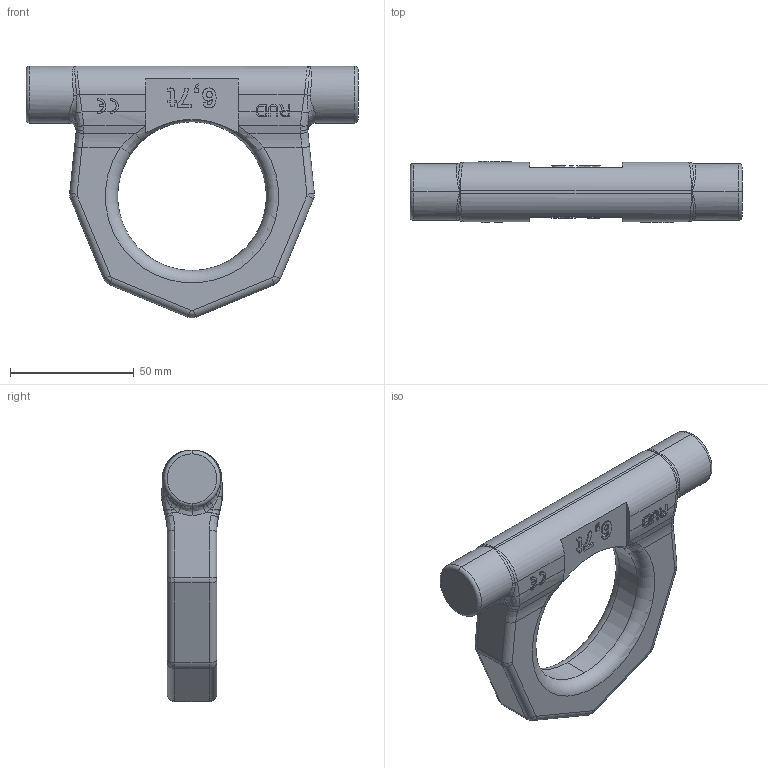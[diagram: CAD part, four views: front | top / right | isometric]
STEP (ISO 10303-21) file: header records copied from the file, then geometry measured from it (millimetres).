
FILE_DESCRIPTION((''),'2;1');
FILE_NAME('001-M35241-P-1','2019-02-01T',('anja.joas'),(''),'PRO/ENGINEER BY PARAMETRIC TECHNOLOGY CORPORATION, 2011490','PRO/ENGINEER BY PARAMETRIC TECHNOLOGY CORPORATION, 2011490','');
FILE_SCHEMA(('CONFIG_CONTROL_DESIGN'));
Length unit declared in the file: millimetre
Products named in the file (1): 001-M35241-P-1
Bounding box: 134 x 25 x 101.62 mm (x, y, z)
Volume: 128235.8 mm3; surface area: 23369.5 mm2
Topology: 1 solids, 1 shells, 484 faces, 1322 edges, 848 vertices
Faces by surface type: plane 266, bspline 74, cylinder 68, extrusion 68, torus 8
Entity records: 17715 total; most frequent: CARTESIAN_POINT 6275, ORIENTED_EDGE 2644, DIRECTION 1932, EDGE_CURVE 1322, VERTEX_POINT 848, VECTOR 820, LINE 752, AXIS2_PLACEMENT_3D 556
